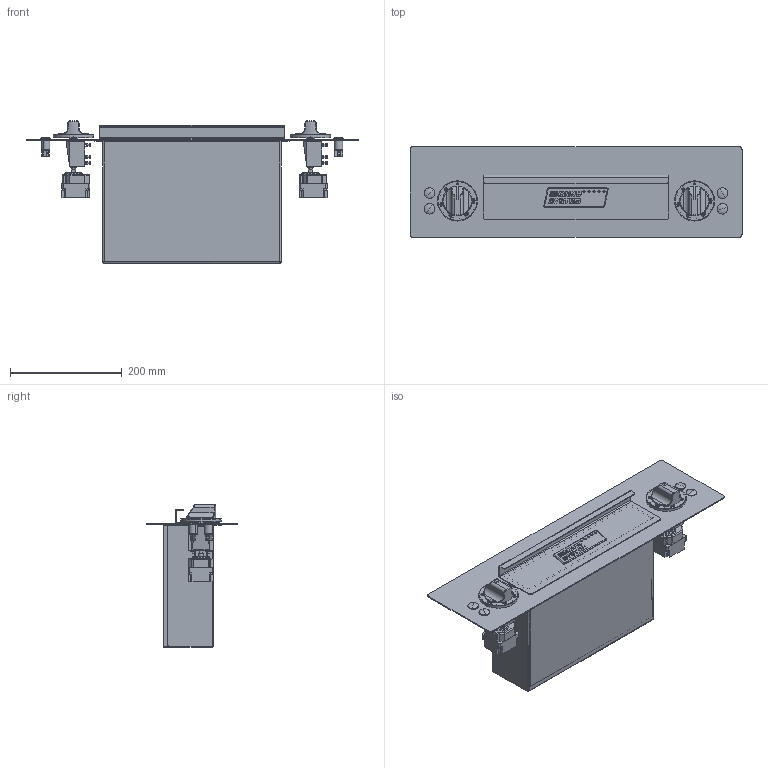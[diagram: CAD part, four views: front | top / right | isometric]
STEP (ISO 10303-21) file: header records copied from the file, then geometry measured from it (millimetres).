
FILE_DESCRIPTION (( 'STEP AP214' ), '1' );
FILE_NAME ('Front mit Fettschublade MS-G-60.STEP', '2019-02-08T15:03:31', ( '' ), ( '' ), 'SwSTEP 2.0', 'SolidWorks 2018', '' );
FILE_SCHEMA (( 'AUTOMOTIVE_DESIGN' ));
Length unit declared in the file: millimetre
Products named in the file (1): Front mit Fettschublade MS-G-60
Bounding box: 595 x 162 x 255.2 mm (x, y, z)
Volume: 954826.2 mm3; surface area: 773870.9 mm2
Topology: 1 solids, 21 shells, 1816 faces, 4518 edges, 2895 vertices
Faces by surface type: plane 1026, cylinder 413, bspline 258, torus 52, cone 43, sphere 24
Entity records: 78729 total; most frequent: CARTESIAN_POINT 16536, ORIENTED_EDGE 8988, DIRECTION 8193, EDGE_CURVE 4494, VERTEX_POINT 2895, LINE 2857, VECTOR 2857, AXIS2_PLACEMENT_3D 2668
